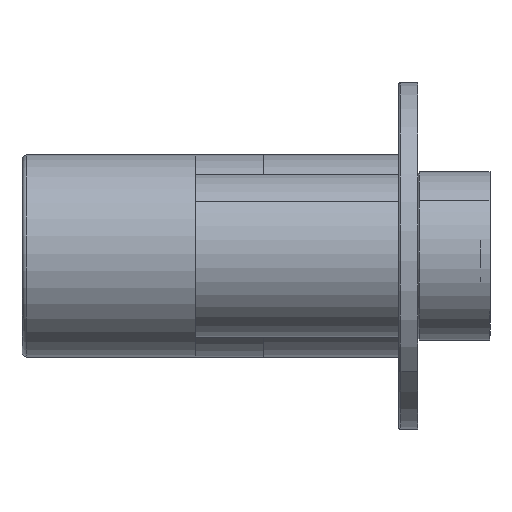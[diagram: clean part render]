
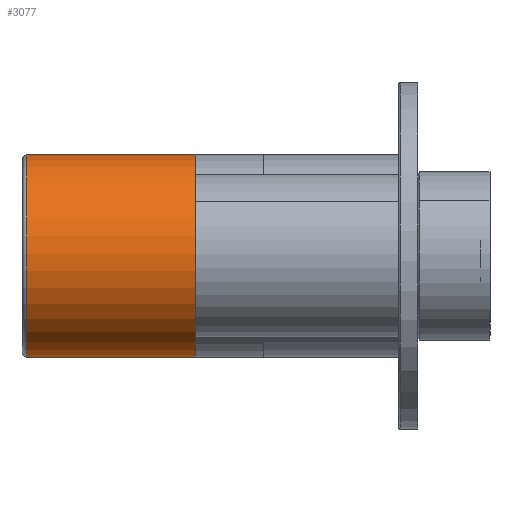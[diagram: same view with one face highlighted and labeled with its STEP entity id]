
A CAD part, left-side view. The second image highlights one B-rep face of the part: STEP entity #3077.
In plain terms, the highlighted cylindrical face has radius 21 mm (diameter 42 mm), a partial arc.
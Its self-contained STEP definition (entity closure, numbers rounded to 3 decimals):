
#678 = AXIS2_PLACEMENT_3D ( 'NONE', #2197, #11719, #6878 ) ;
#793 = VERTEX_POINT ( 'NONE', #8428 ) ;
#1432 = EDGE_LOOP ( 'NONE', ( #3612, #4077, #10582, #8209 ) ) ;
#1924 = DIRECTION ( 'NONE',  ( 0., 0., -1. ) ) ;
#2197 = CARTESIAN_POINT ( 'NONE',  ( 0., 0., 0. ) ) ;
#2319 = CARTESIAN_POINT ( 'NONE',  ( -21., 0., 36. ) ) ;
#2934 = EDGE_CURVE ( 'NONE', #12656, #13109, #3550, .T. ) ;
#3077 = ADVANCED_FACE ( 'NONE', ( #5385 ), #10989, .T. ) ;
#3550 = LINE ( 'NONE', #8241, #10101 ) ;
#3612 = ORIENTED_EDGE ( 'NONE', *, *, #8926, .T. ) ;
#3712 = AXIS2_PLACEMENT_3D ( 'NONE', #10068, #1924, #9768 ) ;
#3755 = CARTESIAN_POINT ( 'NONE',  ( 0., 0., 35. ) ) ;
#3888 = CARTESIAN_POINT ( 'NONE',  ( 21., 0., 0. ) ) ;
#4077 = ORIENTED_EDGE ( 'NONE', *, *, #2934, .T. ) ;
#5385 = FACE_OUTER_BOUND ( 'NONE', #1432, .T. ) ;
#6776 = CARTESIAN_POINT ( 'NONE',  ( -21., 0., 0. ) ) ;
#6878 = DIRECTION ( 'NONE',  ( 1., 0., 0. ) ) ;
#7141 = CARTESIAN_POINT ( 'NONE',  ( 21., 0., 35. ) ) ;
#8087 = LINE ( 'NONE', #2319, #8224 ) ;
#8209 = ORIENTED_EDGE ( 'NONE', *, *, #8460, .F. ) ;
#8224 = VECTOR ( 'NONE', #12832, 1000. ) ;
#8235 = AXIS2_PLACEMENT_3D ( 'NONE', #3755, #13040, #10589 ) ;
#8241 = CARTESIAN_POINT ( 'NONE',  ( 21., 0., 36. ) ) ;
#8428 = CARTESIAN_POINT ( 'NONE',  ( -21., 0., 35. ) ) ;
#8460 = EDGE_CURVE ( 'NONE', #793, #11980, #8087, .T. ) ;
#8926 = EDGE_CURVE ( 'NONE', #793, #12656, #14324, .T. ) ;
#9768 = DIRECTION ( 'NONE',  ( -1., 0., 0. ) ) ;
#9971 = CIRCLE ( 'NONE', #678, 21. ) ;
#10068 = CARTESIAN_POINT ( 'NONE',  ( 0., 0., 36. ) ) ;
#10101 = VECTOR ( 'NONE', #12907, 1000. ) ;
#10569 = EDGE_CURVE ( 'NONE', #13109, #11980, #9971, .T. ) ;
#10582 = ORIENTED_EDGE ( 'NONE', *, *, #10569, .T. ) ;
#10589 = DIRECTION ( 'NONE',  ( 1., 0., 0. ) ) ;
#10989 = CYLINDRICAL_SURFACE ( 'NONE', #3712, 21. ) ;
#11719 = DIRECTION ( 'NONE',  ( 0., 0., 1. ) ) ;
#11980 = VERTEX_POINT ( 'NONE', #6776 ) ;
#12656 = VERTEX_POINT ( 'NONE', #7141 ) ;
#12832 = DIRECTION ( 'NONE',  ( 0., 0., -1. ) ) ;
#12907 = DIRECTION ( 'NONE',  ( 0., 0., -1. ) ) ;
#13040 = DIRECTION ( 'NONE',  ( 0., 0., -1. ) ) ;
#13109 = VERTEX_POINT ( 'NONE', #3888 ) ;
#14324 = CIRCLE ( 'NONE', #8235, 21. ) ;
